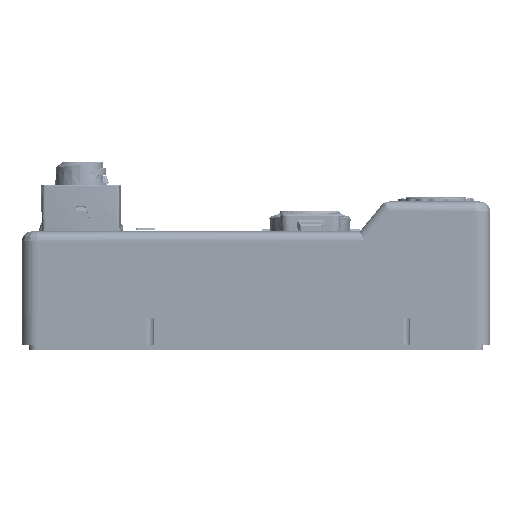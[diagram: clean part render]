
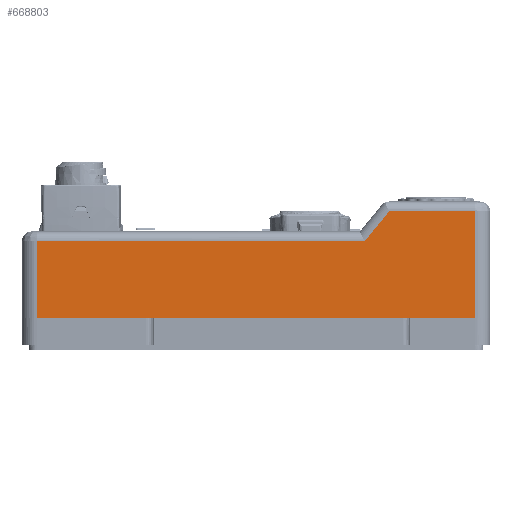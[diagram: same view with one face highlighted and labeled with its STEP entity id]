
A CAD part, front view. The second image highlights one B-rep face of the part: STEP entity #668803.
In plain terms, the highlighted planar face has unit normal (0, -1, 0).
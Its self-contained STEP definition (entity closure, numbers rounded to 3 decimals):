
#46199 = DIRECTION ( 'NONE',  ( 0., 0., -1. ) ) ;
#98794 = VECTOR ( 'NONE', #290303, 1000. ) ;
#119673 = VECTOR ( 'NONE', #1054202, 1000. ) ;
#121018 = DIRECTION ( 'NONE',  ( 0., 0., 1. ) ) ;
#139637 = VECTOR ( 'NONE', #970966, 1000. ) ;
#154153 = PLANE ( 'NONE',  #264756 ) ;
#173793 = ORIENTED_EDGE ( 'NONE', *, *, #325262, .T. ) ;
#181117 = ORIENTED_EDGE ( 'NONE', *, *, #1035792, .T. ) ;
#181285 = ORIENTED_EDGE ( 'NONE', *, *, #1174301, .T. ) ;
#214148 = CARTESIAN_POINT ( 'NONE',  ( 345.728, 5., 78. ) ) ;
#264756 = AXIS2_PLACEMENT_3D ( 'NONE', #1050393, #797553, #46199 ) ;
#285324 = DIRECTION ( 'NONE',  ( 1., 0., 0. ) ) ;
#290303 = DIRECTION ( 'NONE',  ( -1., 0., 0. ) ) ;
#299586 = EDGE_CURVE ( 'NONE', #604180, #1129701, #798720, .T. ) ;
#320605 = LINE ( 'NONE', #1162180, #119673 ) ;
#325262 = EDGE_CURVE ( 'NONE', #516028, #458251, #320605, .T. ) ;
#384285 = EDGE_CURVE ( 'NONE', #717168, #604180, #681007, .T. ) ;
#391665 = ORIENTED_EDGE ( 'NONE', *, *, #1157200, .T. ) ;
#443906 = DIRECTION ( 'NONE',  ( -0.635, 0., -0.772 ) ) ;
#458251 = VERTEX_POINT ( 'NONE', #655147 ) ;
#461068 = VERTEX_POINT ( 'NONE', #906683 ) ;
#516028 = VERTEX_POINT ( 'NONE', #630818 ) ;
#604180 = VERTEX_POINT ( 'NONE', #968500 ) ;
#627960 = LINE ( 'NONE', #880775, #139637 ) ;
#630818 = CARTESIAN_POINT ( 'NONE',  ( 13., 5., 78. ) ) ;
#640324 = CARTESIAN_POINT ( 'NONE',  ( 13., 5., 0. ) ) ;
#655147 = CARTESIAN_POINT ( 'NONE',  ( 13., 5., 0. ) ) ;
#662368 = LINE ( 'NONE', #1119192, #834236 ) ;
#668803 = ADVANCED_FACE ( 'NONE', ( #701461 ), #154153, .T. ) ;
#681007 = LINE ( 'NONE', #843560, #98794 ) ;
#701461 = FACE_OUTER_BOUND ( 'NONE', #886552, .T. ) ;
#717168 = VERTEX_POINT ( 'NONE', #1113483 ) ;
#797553 = DIRECTION ( 'NONE',  ( 0., -1., 0. ) ) ;
#798720 = LINE ( 'NONE', #804625, #886062 ) ;
#804625 = CARTESIAN_POINT ( 'NONE',  ( 370.728, 5., 108.4 ) ) ;
#834236 = VECTOR ( 'NONE', #121018, 1000. ) ;
#843560 = CARTESIAN_POINT ( 'NONE',  ( 13., 5., 108.4 ) ) ;
#850391 = LINE ( 'NONE', #640324, #1014011 ) ;
#880775 = CARTESIAN_POINT ( 'NONE',  ( 345.728, 5., 78. ) ) ;
#886062 = VECTOR ( 'NONE', #443906, 1000. ) ;
#886552 = EDGE_LOOP ( 'NONE', ( #1018047, #181117, #173793, #391665, #181285, #1134458 ) ) ;
#906683 = CARTESIAN_POINT ( 'NONE',  ( 458., 5., 0. ) ) ;
#968500 = CARTESIAN_POINT ( 'NONE',  ( 370.728, 5., 108.4 ) ) ;
#970966 = DIRECTION ( 'NONE',  ( -1., 0., 0. ) ) ;
#1014011 = VECTOR ( 'NONE', #285324, 1000. ) ;
#1018047 = ORIENTED_EDGE ( 'NONE', *, *, #299586, .T. ) ;
#1035792 = EDGE_CURVE ( 'NONE', #1129701, #516028, #627960, .T. ) ;
#1050393 = CARTESIAN_POINT ( 'NONE',  ( 13., 5., 78. ) ) ;
#1054202 = DIRECTION ( 'NONE',  ( 0., 0., -1. ) ) ;
#1113483 = CARTESIAN_POINT ( 'NONE',  ( 458., 5., 108.4 ) ) ;
#1119192 = CARTESIAN_POINT ( 'NONE',  ( 458., 5., 78. ) ) ;
#1129701 = VERTEX_POINT ( 'NONE', #214148 ) ;
#1134458 = ORIENTED_EDGE ( 'NONE', *, *, #384285, .T. ) ;
#1157200 = EDGE_CURVE ( 'NONE', #458251, #461068, #850391, .T. ) ;
#1162180 = CARTESIAN_POINT ( 'NONE',  ( 13., 5., 78. ) ) ;
#1174301 = EDGE_CURVE ( 'NONE', #461068, #717168, #662368, .T. ) ;
